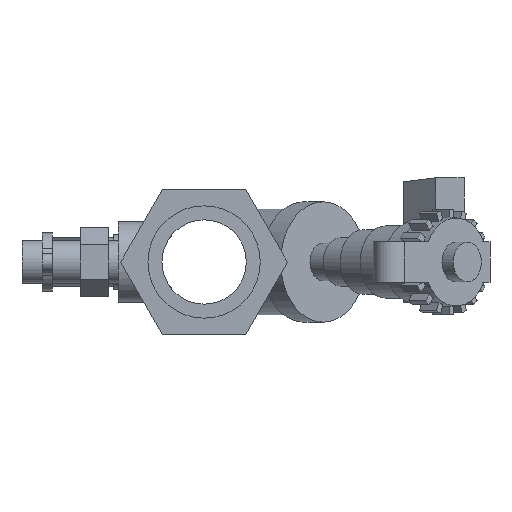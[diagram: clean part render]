
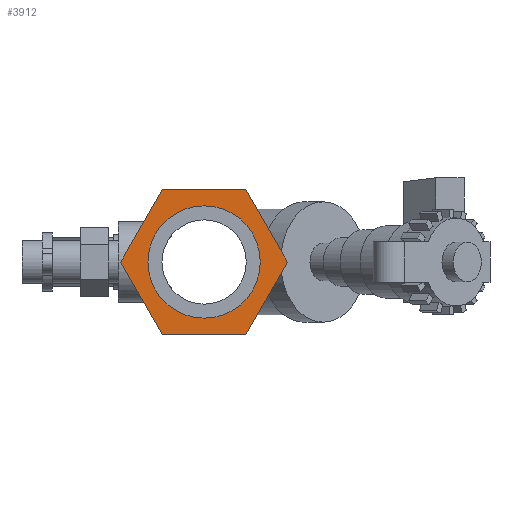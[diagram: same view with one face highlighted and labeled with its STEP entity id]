
A CAD part, left-side view. The second image highlights one B-rep face of the part: STEP entity #3912.
In plain terms, the highlighted planar face has unit normal (-1, 0, 0).
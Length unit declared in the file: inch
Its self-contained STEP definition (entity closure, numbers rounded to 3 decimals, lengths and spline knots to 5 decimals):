
#111=FACE_BOUND('',#732,.T.);
#266=PLANE('',#4312);
#474=FACE_OUTER_BOUND('',#731,.T.);
#731=EDGE_LOOP('',(#3477,#3478,#3479,#3480,#3481,#3482));
#732=EDGE_LOOP('',(#3483));
#1063=LINE('',#6845,#1399);
#1067=LINE('',#6853,#1403);
#1070=LINE('',#6859,#1406);
#1073=LINE('',#6865,#1409);
#1076=LINE('',#6871,#1412);
#1078=LINE('',#6874,#1414);
#1399=VECTOR('',#5378,0.3937);
#1403=VECTOR('',#5384,0.3937);
#1406=VECTOR('',#5389,0.3937);
#1409=VECTOR('',#5394,0.3937);
#1412=VECTOR('',#5399,0.3937);
#1414=VECTOR('',#5403,0.3937);
#1586=CIRCLE('',#4304,0.7);
#1931=VERTEX_POINT('',#6835);
#1933=VERTEX_POINT('',#6842);
#1934=VERTEX_POINT('',#6844);
#1936=VERTEX_POINT('',#6850);
#1938=VERTEX_POINT('',#6856);
#1940=VERTEX_POINT('',#6862);
#1942=VERTEX_POINT('',#6868);
#2447=EDGE_CURVE('',#1931,#1931,#1586,.T.);
#2450=EDGE_CURVE('',#1934,#1933,#1063,.T.);
#2454=EDGE_CURVE('',#1933,#1936,#1067,.T.);
#2457=EDGE_CURVE('',#1936,#1938,#1070,.T.);
#2460=EDGE_CURVE('',#1938,#1940,#1073,.T.);
#2463=EDGE_CURVE('',#1940,#1942,#1076,.T.);
#2465=EDGE_CURVE('',#1942,#1934,#1078,.T.);
#3477=ORIENTED_EDGE('',*,*,#2450,.T.);
#3478=ORIENTED_EDGE('',*,*,#2454,.T.);
#3479=ORIENTED_EDGE('',*,*,#2457,.T.);
#3480=ORIENTED_EDGE('',*,*,#2460,.T.);
#3481=ORIENTED_EDGE('',*,*,#2463,.T.);
#3482=ORIENTED_EDGE('',*,*,#2465,.T.);
#3483=ORIENTED_EDGE('',*,*,#2447,.F.);
#3912=ADVANCED_FACE('',(#474,#111),#266,.T.);
#4304=AXIS2_PLACEMENT_3D('',#6837,#5370,#5371);
#4312=AXIS2_PLACEMENT_3D('',#6876,#5405,#5406);
#5370=DIRECTION('center_axis',(-1.,0.,0.));
#5371=DIRECTION('ref_axis',(0.,1.,0.));
#5378=DIRECTION('',(0.,1.,0.));
#5384=DIRECTION('',(0.,0.5,-0.866));
#5389=DIRECTION('',(0.,-0.5,-0.866));
#5394=DIRECTION('',(0.,-1.,0.));
#5399=DIRECTION('',(0.,-0.5,0.866));
#5403=DIRECTION('',(0.,0.5,0.866));
#5405=DIRECTION('center_axis',(-1.,0.,0.));
#5406=DIRECTION('ref_axis',(0.,0.,1.));
#6835=CARTESIAN_POINT('',(-2.87,-0.7,0.));
#6837=CARTESIAN_POINT('Origin',(-2.87,0.,0.));
#6842=CARTESIAN_POINT('',(-2.87,0.51962,0.9));
#6844=CARTESIAN_POINT('',(-2.87,-0.51962,0.9));
#6845=CARTESIAN_POINT('',(-2.87,0.51962,0.9));
#6850=CARTESIAN_POINT('',(-2.87,1.03923,0.));
#6853=CARTESIAN_POINT('',(-2.87,1.03923,0.));
#6856=CARTESIAN_POINT('',(-2.87,0.51962,-0.9));
#6859=CARTESIAN_POINT('',(-2.87,0.51962,-0.9));
#6862=CARTESIAN_POINT('',(-2.87,-0.51962,-0.9));
#6865=CARTESIAN_POINT('',(-2.87,-0.51962,-0.9));
#6868=CARTESIAN_POINT('',(-2.87,-1.03923,0.));
#6871=CARTESIAN_POINT('',(-2.87,-1.03923,0.));
#6874=CARTESIAN_POINT('',(-2.87,-0.51962,0.9));
#6876=CARTESIAN_POINT('Origin',(-2.87,0.,0.));
